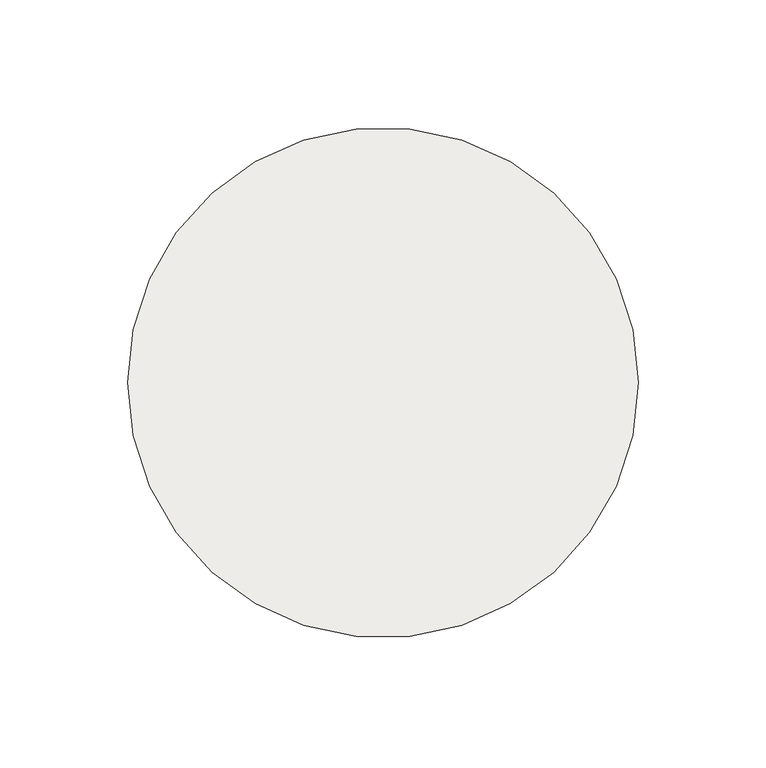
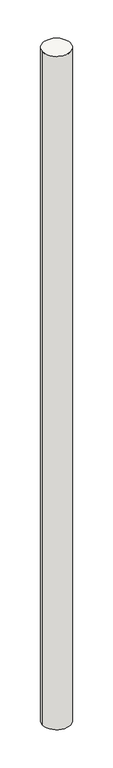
"""IFC4 building model written with IfcOpenShell, lengths in millimetres: slab geometry."""

from ifc_helpers import new_model, si_unit, point, frame, origin, origin_2d, place, context, project, spatial, circle_curve, trimmed, segment, composite_curve, outline, extrude, source, transform, mapped, element, save


def slab_1d791855(model_context):
    return source(origin(), model_context, "Body", "SweptSolid", [
        extrude(outline(composite_curve([segment(trimmed(circle_curve(origin_2d(), 100.0), [point((100.0, 0.0))], [point((-100.0, 0.0))], False, "CARTESIAN"), True, "CONTINUOUS"), segment(trimmed(circle_curve(origin_2d(), 100.0), [point((-100.0, 0.0))], [point((100.0, 0.0))], False, "CARTESIAN"), True, "CONTINUOUS")], self_intersect=False)), frame((0.0, 0.0, -5150.0), z_axis=(0.0, 0.0, 1.0), x_axis=(1.0, 0.0, 0.0)), (0.0, 0.0, 1.0), 5150.0),
    ])


if __name__ == "__main__":
    model = new_model("IFC4")
    model_context = context("Model", 3, world=origin())
    ifc_project = project(units=[si_unit("LENGTHUNIT", "METRE", prefix="MILLI")], contexts=[model_context])
    site = spatial("IfcSite", under=ifc_project)
    building = spatial("IfcBuilding", under=site)
    placement = place(None, origin())
    slab_shape = slab_1d791855(model_context)
    element("IfcSlab", 1, at=placement, inside=building, context=model_context, shape_type="MappedRepresentation", body=[
        mapped(slab_shape, transform((0.0, 0.0, 0.0), x_axis=(1.0, 0.0, 0.0), y_axis=(0.0, 1.0, 0.0), z_axis=(0.0, 0.0, 1.0))),
    ])
    save(model, "model.ifc")
